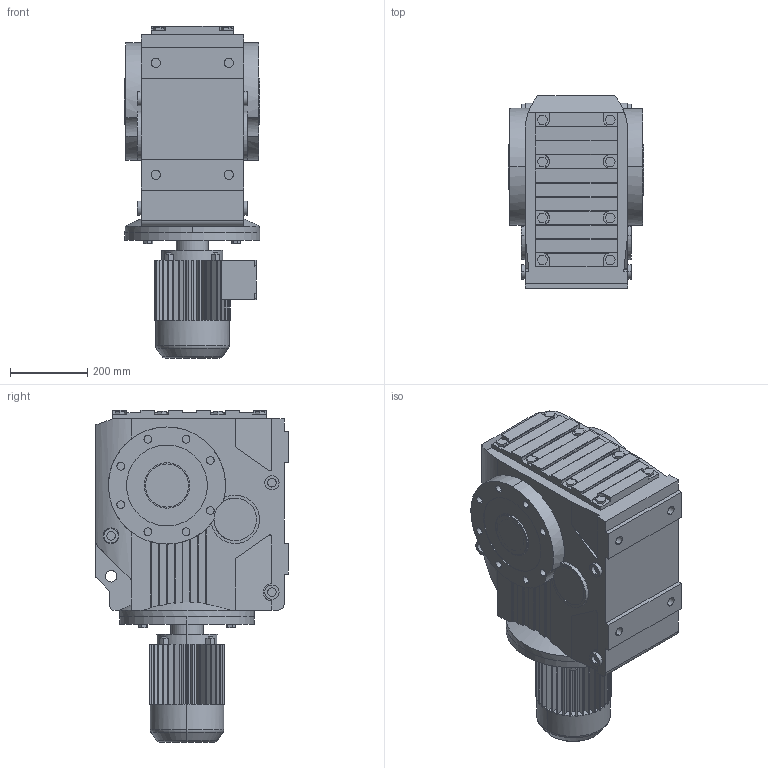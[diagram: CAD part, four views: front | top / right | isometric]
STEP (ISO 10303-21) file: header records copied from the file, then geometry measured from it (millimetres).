
FILE_DESCRIPTION(('Open CASCADE Model'),'2;1');
FILE_NAME('Open CASCADE Shape Model','2018-09-13T10:59:11',('Author'),( 'Open CASCADE'),'Open CASCADE STEP processor 6.3','Open CASCADE 6.3' ,'Unknown');
FILE_SCHEMA(('AUTOMOTIVE_DESIGN_CC2 { 1 2 10303 214 -1 1 5 4 }'));
Length unit declared in the file: millimetre
Products named in the file (4): 35_KA107DV100L-A; KA37‵107_107.step; 萇儂_350-DV100L-325-410-197-166.step; す瑩諾陑粣K_107.step
Assembly tree (3 placements, depth 2):
  35_KA107DV100L-A
    KA37‵107_107.step
    萇儂_350-DV100L-325-410-197-166.step
    す瑩諾陑粣K_107.step
Bounding box: 351.75 x 500 x 862 mm (x, y, z)
Volume: 77663456.5 mm3; surface area: 2227160.5 mm2
Topology: 3 solids, 3 shells, 847 faces, 2208 edges, 1438 vertices
Faces by surface type: plane 557, cylinder 280, cone 6, torus 4
Entity records: 63387 total; most frequent: CARTESIAN_POINT 21928, DIRECTION 6962, ORIENTED_EDGE 4416, PCURVE 4416, DEFINITIONAL_REPRESENTATION 4416, LINE 3628, VECTOR 3628, EDGE_CURVE 2208
